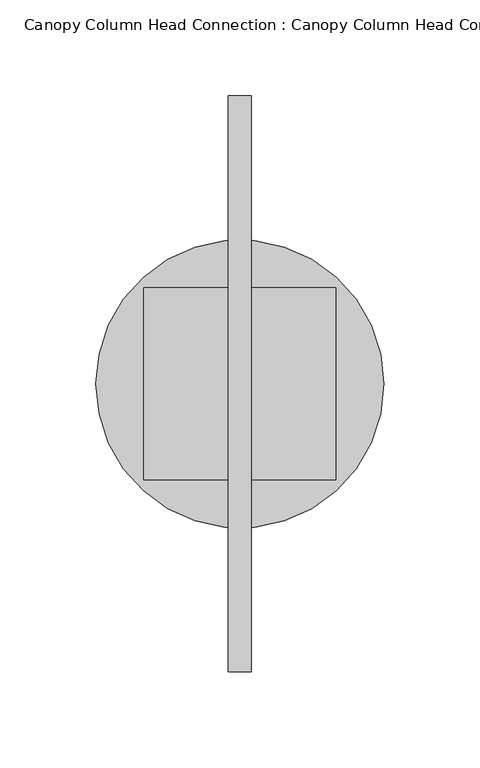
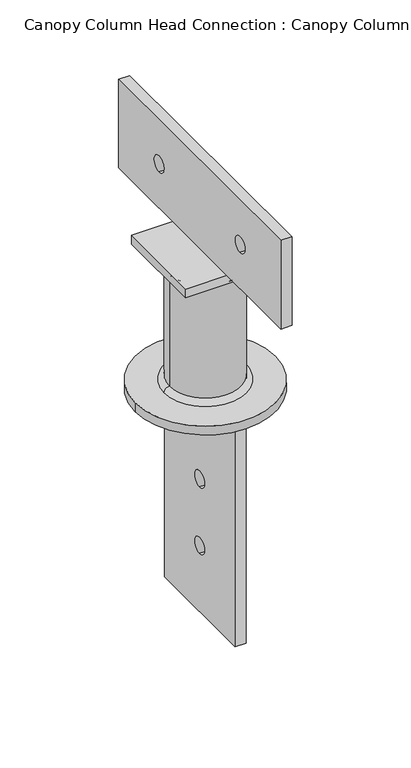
"""IFC4 building model written with IfcOpenShell, lengths in millimetres: proxy geometry, Canopy Column Head Connection : Canopy Column Head Connection."""

import ifcopenshell
import ifcopenshell.guid

model = None  # the IFC model being written
_history = None  # IfcOwnerHistory: only IFC2X3 demands one
_inside = {}  # id of a spatial element -> (the spatial element, [elements in it])
_under = {}  # id of a project, library or spatial element -> (it, [spatial elements below it])
_declared = {}  # id of a project -> (the project, [libraries it declares])
_typed = {}  # id of a type object -> (the type object, [elements of that type])
_made_of = {}  # id of a material, layer set ... -> (it, [elements and type objects made of it])


def new_model(schema):
    """Start an empty IFC model of exactly this schema.

    Asked for "IFC4X3", IfcOpenShell would pick the latest addendum, in which some entities
    have other attributes; the version numbers below select the first issue.
    IFC2X3 requires an IfcOwnerHistory on every rooted entity: one is made here for all.
    """
    global model, _history
    if schema == "IFC4X3":
        model = ifcopenshell.file(schema_version=(4, 3, 0, 0))
    else:
        model = ifcopenshell.file(schema=schema)
    _inside.clear()
    _under.clear()
    _declared.clear()
    _typed.clear()
    _made_of.clear()
    _history = None
    if model.schema == "IFC2X3":
        org = make("IfcOrganization", Name="unknown")
        user = make(
            "IfcPersonAndOrganization",
            ThePerson=make("IfcPerson", FamilyName="unknown"),
            TheOrganization=org,
        )
        app = make(
            "IfcApplication",
            ApplicationDeveloper=org,
            Version="unknown",
            ApplicationFullName="unknown",
            ApplicationIdentifier="unknown",
        )
        _history = make(
            "IfcOwnerHistory",
            OwningUser=user,
            OwningApplication=app,
            ChangeAction="ADDED",
            CreationDate=0,
        )
    return model


def make(cls, **values):
    """One entity of the class cls with the attributes given. An attribute that is None is left unset."""
    return model.create_entity(
        cls, **{name: value for name, value in values.items() if value is not None}
    )


def rooted(cls, **values):
    """An entity with a GlobalId (a new one), such as an element, a storey or a relation."""
    return make(cls, GlobalId=ifcopenshell.guid.new(), OwnerHistory=_history, **values)


def si_unit(unit_type, name, prefix=None):
    """IfcSIUnit, for example si_unit("LENGTHUNIT", "METRE", prefix="MILLI")."""
    return make("IfcSIUnit", UnitType=unit_type, Prefix=prefix, Name=name)


def assignment(units):
    """IfcUnitAssignment: the units of a project."""
    return None if units is None else make("IfcUnitAssignment", Units=units)


def point(xyz):
    """IfcCartesianPoint."""
    return None if xyz is None else make("IfcCartesianPoint", Coordinates=xyz)


def direction(xyz):
    """IfcDirection."""
    return None if xyz is None else make("IfcDirection", DirectionRatios=xyz)


def frame(location, z_axis=None, x_axis=None):
    """IfcAxis2Placement3D, a coordinate frame: its origin and axes. An axis left out is left unset."""
    return make(
        "IfcAxis2Placement3D",
        Location=point(location),
        Axis=direction(z_axis),
        RefDirection=direction(x_axis),
    )


def frame_2d(location, x_axis=None):
    """IfcAxis2Placement2D, a coordinate frame in the plane: its origin and x axis."""
    return make(
        "IfcAxis2Placement2D", Location=point(location), RefDirection=direction(x_axis)
    )


def origin():
    """The frame at (0, 0, 0) with its axes left unset."""
    return frame((0.0, 0.0, 0.0))


def origin_with_axes():
    """The frame at (0, 0, 0) with the z axis (0, 0, 1) and the x axis (1, 0, 0) written out."""
    return frame((0.0, 0.0, 0.0), z_axis=(0.0, 0.0, 1.0), x_axis=(1.0, 0.0, 0.0))


def origin_2d():
    """The frame at (0, 0) in the plane with its x axis left unset."""
    return frame_2d((0.0, 0.0))


def place(relative_to, where):
    """IfcLocalPlacement: puts the frame where relative to a parent placement (None: the world)."""
    return make(
        "IfcLocalPlacement", PlacementRelTo=relative_to, RelativePlacement=where
    )


def context(
    kind, dimensions, precision=None, world=None, true_north=None, identifier=None
):
    """IfcGeometricRepresentationContext, for example the 3D "Model" context."""
    return make(
        "IfcGeometricRepresentationContext",
        ContextIdentifier=identifier,
        ContextType=kind,
        CoordinateSpaceDimension=dimensions,
        Precision=precision,
        WorldCoordinateSystem=world,
        TrueNorth=true_north,
    )


def project(units=None, contexts=None):
    """IfcProject with its units and contexts."""
    return rooted(
        "IfcProject",
        Name="project",
        RepresentationContexts=contexts,
        UnitsInContext=assignment(units),
    )


def spatial(cls, under=None, at=None, **own):
    """A site, building, storey or space (cls), placed at a placement, below another one or the project."""
    s = rooted(cls, ObjectPlacement=at, **own)
    if under is not None:
        _under.setdefault(under.id(), (under, []))[1].append(s)
    return s


def polyline(points):
    """IfcPolyline through the points."""
    return make("IfcPolyline", Points=[point(p) for p in points])


def circle_curve(where, radius):
    """IfcCircle in the frame where."""
    return make("IfcCircle", Position=where, Radius=radius)


def ellipse_curve(where, semi_axis1, semi_axis2):
    """IfcEllipse in the frame where."""
    return make(
        "IfcEllipse", Position=where, SemiAxis1=semi_axis1, SemiAxis2=semi_axis2
    )


def trimmed(basis, trim1, trim2, sense, master):
    """IfcTrimmedCurve: the piece of a basis curve between two trims."""
    return make(
        "IfcTrimmedCurve",
        BasisCurve=basis,
        Trim1=trim1,
        Trim2=trim2,
        SenseAgreement=sense,
        MasterRepresentation=master,
    )


def segment(curve, same_sense, transition):
    """IfcCompositeCurveSegment."""
    return make(
        "IfcCompositeCurveSegment",
        Transition=transition,
        SameSense=same_sense,
        ParentCurve=curve,
    )


def composite_curve(segments, self_intersect=None):
    """IfcCompositeCurve: segments joined end to end."""
    return make("IfcCompositeCurve", Segments=segments, SelfIntersect=self_intersect)


def outline(outer, holes=None, kind="AREA"):
    """IfcArbitraryClosedProfileDef: a profile drawn as a closed curve; with holes, ...WithVoids."""
    if holes is None:
        return make("IfcArbitraryClosedProfileDef", ProfileType=kind, OuterCurve=outer)
    return make(
        "IfcArbitraryProfileDefWithVoids",
        ProfileType=kind,
        OuterCurve=outer,
        InnerCurves=holes,
    )


def extrude(swept, where, along, depth):
    """IfcExtrudedAreaSolid: the profile swept, set in the frame where, extruded along a direction by depth."""
    return make(
        "IfcExtrudedAreaSolid",
        SweptArea=swept,
        Position=where,
        ExtrudedDirection=direction(along),
        Depth=depth,
    )


def shape(context_of_items, identifier, shape_type, items):
    """IfcShapeRepresentation: the items that make up one representation, for example the "Body"."""
    return make(
        "IfcShapeRepresentation",
        ContextOfItems=context_of_items,
        RepresentationIdentifier=identifier,
        RepresentationType=shape_type,
        Items=items,
    )


def source(mapping_origin, context_of_items, identifier, shape_type, items):
    """IfcRepresentationMap: a shape defined once, which mapped items show again and again."""
    return make(
        "IfcRepresentationMap",
        MappingOrigin=mapping_origin,
        MappedRepresentation=shape(context_of_items, identifier, shape_type, items),
    )


def transform(
    local_origin,
    x_axis=None,
    y_axis=None,
    z_axis=None,
    scale=None,
    scale2=None,
    scale3=None,
    uniform=True,
):
    """IfcCartesianTransformationOperator3D, or its non-uniform kind. x_axis, y_axis, z_axis: its Axis1, 2, 3."""
    if uniform:
        return make(
            "IfcCartesianTransformationOperator3D",
            Axis1=direction(x_axis),
            Axis2=direction(y_axis),
            LocalOrigin=point(local_origin),
            Scale=scale,
            Axis3=direction(z_axis),
        )
    return make(
        "IfcCartesianTransformationOperator3DnonUniform",
        Axis1=direction(x_axis),
        Axis2=direction(y_axis),
        LocalOrigin=point(local_origin),
        Scale=scale,
        Axis3=direction(z_axis),
        Scale2=scale2,
        Scale3=scale3,
    )


def mapped(mapping_source, mapping_target):
    """IfcMappedItem: shows the shape of a source again, moved by a transform."""
    return make(
        "IfcMappedItem", MappingSource=mapping_source, MappingTarget=mapping_target
    )


def made_of(thing, what):
    """Note that an element or type object is made of a material, layer set ...; save() writes the relation."""
    if what is not None:
        _made_of.setdefault(what.id(), (what, []))[1].append(thing)
    return thing


def element(
    cls,
    number,
    at=None,
    inside=None,
    cuts=None,
    type_object=None,
    material=None,
    context=None,
    identifier="Body",
    shape_type=None,
    held_by="IfcProductDefinitionShape",
    body=None,
    shapes=None,
    **own,
):
    """One element of the class cls, such as IfcWall. Its Tag is "e" and its number.

    at: its placement. inside: the storey or other place that contains it. cuts: it is an
    opening in that element (IfcRelVoidsElement). A single representation is given by context,
    identifier, shape_type and body (its items); several are given by shapes. held_by: the class
    of the entity that holds the representations. save() writes the other relations.
    """
    e = rooted(cls, Tag="e%d" % number, ObjectPlacement=at, **own)
    if body is not None:
        shapes = [shape(context, identifier, shape_type, body)]
    if shapes is not None:
        e.Representation = make(held_by, Representations=shapes)
    if inside is not None:
        _inside.setdefault(inside.id(), (inside, []))[1].append(e)
    if cuts is not None:
        rooted(
            "IfcRelVoidsElement", RelatingBuildingElement=cuts, RelatedOpeningElement=e
        )
    if type_object is not None:
        _typed.setdefault(type_object.id(), (type_object, []))[1].append(e)
    return made_of(e, material)


def aggregate(whole, parts):
    """IfcRelAggregates: a whole, such as a stair, and the parts it consists of."""
    return rooted("IfcRelAggregates", RelatingObject=whole, RelatedObjects=parts)


def save(model, path):
    """Write the relations noted so far, then the file.

    IfcRelAggregates (storeys below a building ...), IfcRelContainedInSpatialStructure (elements
    in a storey), IfcRelDefinesByType, IfcRelAssociatesMaterial and IfcRelDeclares: one each for
    every whole, place, type object, material and project.
    """
    for whole, parts in _under.values():
        aggregate(whole, parts)
    for where, things in _inside.values():
        rooted(
            "IfcRelContainedInSpatialStructure",
            RelatedElements=things,
            RelatingStructure=where,
        )
    for kind, things in _typed.values():
        rooted("IfcRelDefinesByType", RelatedObjects=things, RelatingType=kind)
    for what, things in _made_of.values():
        rooted("IfcRelAssociatesMaterial", RelatedObjects=things, RelatingMaterial=what)
    for by, libraries in _declared.values():
        rooted("IfcRelDeclares", RelatingContext=by, RelatedDefinitions=libraries)
    model.write(path)


def plane_surface(at):
    """IfcPlane: the flat surface through the origin of the frame at, square to its z axis."""
    return make("IfcPlane", Position=at)


def revolved_surface(curve, axis_point, axis_direction):
    """IfcSurfaceOfRevolution: the curve turned about the line through axis_point along axis_direction."""
    return make(
        "IfcSurfaceOfRevolution",
        SweptCurve=make("IfcArbitraryOpenProfileDef", ProfileType="CURVE", Curve=curve),
        AxisPosition=make("IfcAxis1Placement", Location=point(axis_point), Axis=direction(axis_direction)),
    )


def advanced_brep(points, edges, surfaces, faces):
    """IfcAdvancedBrep: a solid bounded by faces that lie on surfaces and meet in shared edges.

    An edge is (start, end): straight between two places in points (the first is 0);
    or (start, end, curve); or (start, end, curve, False) where it runs against its curve.
    A face is (place in surfaces, loops), or (place, loops, False) where it looks against
    its surface's normal. A loop lists edges by number (the first is 1), with a minus sign
    where the edge is run from its end to its start. The first loop is the outer one.
    """
    corners = [point(p) for p in points]
    vertices = [make("IfcVertexPoint", VertexGeometry=c) for c in corners]
    made = []
    for start, end, *more in edges:
        made.append(
            make(
                "IfcEdgeCurve",
                EdgeStart=vertices[start],
                EdgeEnd=vertices[end],
                EdgeGeometry=more[0] if more else make("IfcPolyline", Points=[corners[start], corners[end]]),
                SameSense=more[1] if len(more) > 1 else True,
            )
        )
    hull = []
    for where, loops, *sense in faces:
        bounds = []
        for j, loop in enumerate(loops):
            ring = [make("IfcOrientedEdge", EdgeElement=made[abs(k) - 1], Orientation=k > 0) for k in loop]
            bounds.append(
                make(
                    "IfcFaceOuterBound" if j == 0 else "IfcFaceBound",
                    Bound=make("IfcEdgeLoop", EdgeList=ring),
                    Orientation=True,
                )
            )
        hull.append(make("IfcAdvancedFace", Bounds=bounds, FaceSurface=surfaces[where], SameSense=sense[0] if sense else True))
    return make("IfcAdvancedBrep", Outer=make("IfcClosedShell", CfsFaces=hull))


def canopy_column_head_connection_canopy_column_head_connection_2c35da79(model_context):
    return source(origin(), model_context, "Body", "SolidModel", [
        extrude(outline(composite_curve([segment(trimmed(circle_curve(origin_2d(), 38.05), [point((-38.05, 0.0))], [point((38.05, 0.0))], False, "CARTESIAN"), True, "CONTINUOUS"), segment(trimmed(circle_curve(origin_2d(), 38.05), [point((38.05, 0.0))], [point((-38.05, 0.0))], False, "CARTESIAN"), True, "CONTINUOUS")], self_intersect=False), holes=[composite_curve([segment(trimmed(circle_curve(origin_2d(), 33.05), [point((-33.05, 0.0))], [point((33.05, 0.0))], True, "CARTESIAN"), True, "CONTINUOUS"), segment(trimmed(circle_curve(origin_2d(), 33.05), [point((33.05, 0.0))], [point((-33.05, 0.0))], True, "CARTESIAN"), True, "CONTINUOUS")], self_intersect=False)]), frame((0.0, 0.0, 10.0), z_axis=(0.0, 0.0, 1.0), x_axis=(1.0, 0.0, 0.0)), (0.0, 0.0, 1.0), 140.0),
        extrude(outline(polyline([(-65.0, -250.0), (-65.0, 0.0), (65.0, 0.0), (65.0, -250.0), (-65.0, -250.0)]), holes=[composite_curve([segment(trimmed(circle_curve(frame_2d((0.0, -100.0)), 8.9998703), [point((0.0, -108.9998703))], [point((0.0, -91.0001297))], True, "CARTESIAN"), True, "CONTINUOUS"), segment(trimmed(circle_curve(frame_2d((0.0, -100.0)), 8.9998703), [point((0.0, -91.0001297))], [point((0.0, -108.9998703))], True, "CARTESIAN"), True, "CONTINUOUS")], self_intersect=False), composite_curve([segment(trimmed(circle_curve(frame_2d((0.0, -175.0)), 8.9998703), [point((0.0, -183.9998703))], [point((0.0, -166.0001297))], True, "CARTESIAN"), True, "CONTINUOUS"), segment(trimmed(circle_curve(frame_2d((0.0, -175.0)), 8.9998703), [point((0.0, -166.0001297))], [point((0.0, -183.9998703))], True, "CARTESIAN"), True, "CONTINUOUS")], self_intersect=False)]), frame((-6.0, 0.0, 0.0), z_axis=(1.0, 0.0, 0.0), x_axis=(0.0, 1.0, 0.0)), (0.0, 0.0, 1.0), 12.0),
        extrude(outline(polyline([(150.0, 160.0), (-150.0, 160.0), (-150.0, 260.0), (150.0, 260.0), (150.0, 160.0)]), holes=[composite_curve([segment(trimmed(circle_curve(frame_2d((-75.0, 210.0)), 8.9998703), [point((-75.0, 201.0001297))], [point((-75.0, 218.9998703))], True, "CARTESIAN"), True, "CONTINUOUS"), segment(trimmed(circle_curve(frame_2d((-75.0, 210.0)), 8.9998703), [point((-75.0, 218.9998703))], [point((-75.0, 201.0001297))], True, "CARTESIAN"), True, "CONTINUOUS")], self_intersect=False), composite_curve([segment(trimmed(circle_curve(frame_2d((75.0, 210.0)), 8.9998703), [point((75.0, 201.0001297))], [point((75.0, 218.9998703))], True, "CARTESIAN"), True, "CONTINUOUS"), segment(trimmed(circle_curve(frame_2d((75.0, 210.0)), 8.9998703), [point((75.0, 218.9998703))], [point((75.0, 201.0001297))], True, "CARTESIAN"), True, "CONTINUOUS")], self_intersect=False)]), frame((-6.0, 0.0, 0.0), z_axis=(1.0, 0.0, 0.0), x_axis=(0.0, 1.0, 0.0)), (0.0, 0.0, 1.0), 12.0),
        extrude(outline(composite_curve([segment(trimmed(circle_curve(origin_2d(), 75.0), [point((75.0, 0.0))], [point((-75.0, 0.0))], False, "CARTESIAN"), True, "CONTINUOUS"), segment(trimmed(circle_curve(origin_2d(), 75.0), [point((-75.0, 0.0))], [point((75.0, 0.0))], False, "CARTESIAN"), True, "CONTINUOUS")], self_intersect=False)), origin_with_axes(), (0.0, 0.0, 1.0), 10.0),
        advanced_brep(
        [(-38.05, 0.0, 150.0), (38.05, 0.0, 150.0), (38.05, 0.0, 144.0), (-38.05, 0.0, 144.0), (44.05, 0.0, 150.0), (-44.05, 0.0, 150.0)],
        [
            (0, 1, circle_curve(frame((0.0, 0.0, 150.0), z_axis=(0.0, 0.0, 1.0), x_axis=(1.0, 0.0, 0.0)), 38.05)),
            (1, 2),
            (2, 3, circle_curve(frame((0.0, 0.0, 144.0), z_axis=(0.0, 0.0, -1.0), x_axis=(1.0, 0.0, 0.0)), 38.05)),
            (3, 0),
            (1, 0, circle_curve(frame((0.0, 0.0, 150.0), z_axis=(0.0, 0.0, 1.0), x_axis=(1.0, 0.0, 0.0)), 38.05)),
            (3, 2, circle_curve(frame((0.0, 0.0, 144.0), z_axis=(0.0, 0.0, -1.0), x_axis=(1.0, 0.0, 0.0)), 38.05)),
            (2, 4, circle_curve(frame((38.05, 0.0, 150.0), z_axis=(0.0, -1.0, 0.0), x_axis=(-1.0, 0.0, 0.0)), 6.0)),
            (4, 5, circle_curve(frame((0.0, 0.0, 150.0), z_axis=(0.0, 0.0, -1.0), x_axis=(1.0, 0.0, 0.0)), 44.05)),
            (5, 3, circle_curve(frame((-38.05, 0.0, 150.0), z_axis=(0.0, -1.0, 0.0), x_axis=(1.0, 0.0, 0.0)), 6.0)),
            (5, 4, circle_curve(frame((0.0, 0.0, 150.0), z_axis=(0.0, 0.0, -1.0), x_axis=(1.0, 0.0, 0.0)), 44.05)),
            (4, 1),
            (0, 5),
        ],
        [
            revolved_surface(polyline([(38.05, 0.0, 144.0), (38.05, 0.0, 150.0)]), (0.0, 0.0, 40.0), (0.0, 0.0, -1.0)),
            revolved_surface(trimmed(ellipse_curve(frame((38.05, 0.0, 150.0), z_axis=(0.0, 1.0, 0.0), x_axis=(-1.0, 0.0, 0.0)), 6.0, 6.0), [point((44.05, 0.0, 150.0))], [point((38.05, 0.0, 144.0))], True, "CARTESIAN"), (0.0, 0.0, 40.0), (0.0, 0.0, -1.0)),
            plane_surface(frame((0.0, 0.0, 150.0), z_axis=(0.0, 0.0, 1.0), x_axis=(1.0, 0.0, 0.0))),
        ],
        [
            (0, [[1, 2, 3, 4]]),
            (0, [[5, -4, 6, -2]]),
            (1, [[-3, 7, 8, 9]]),
            (1, [[-6, -9, 10, -7]]),
            (2, [[-8, 11, -1, 12]]),
            (2, [[-10, -12, -5, -11]]),
        ],
    ),
        extrude(outline(polyline([(50.0, 50.0), (50.0, -50.0), (-50.0, -50.0), (-50.0, 50.0), (50.0, 50.0)])), frame((0.0, 0.0, 150.0), z_axis=(0.0, 0.0, 1.0), x_axis=(1.0, 0.0, 0.0)), (0.0, 0.0, 1.0), 10.0),
        advanced_brep(
        [(-38.05, 0.0, 16.0), (38.05, 0.0, 16.0), (38.05, 0.0, 10.0), (-38.05, 0.0, 10.0), (-44.05, 0.0, 10.0), (44.05, 0.0, 10.0)],
        [
            (0, 1, circle_curve(frame((0.0, 0.0, 16.0), z_axis=(0.0, 0.0, 1.0), x_axis=(1.0, 0.0, 0.0)), 38.05)),
            (1, 2),
            (2, 3, circle_curve(frame((0.0, 0.0, 10.0), z_axis=(0.0, 0.0, -1.0), x_axis=(1.0, 0.0, 0.0)), 38.05)),
            (3, 0),
            (1, 0, circle_curve(frame((0.0, 0.0, 16.0), z_axis=(0.0, 0.0, 1.0), x_axis=(1.0, 0.0, 0.0)), 38.05)),
            (3, 2, circle_curve(frame((0.0, 0.0, 10.0), z_axis=(0.0, 0.0, -1.0), x_axis=(1.0, 0.0, 0.0)), 38.05)),
            (4, 5, circle_curve(frame((0.0, 0.0, 10.0), z_axis=(0.0, 0.0, 1.0), x_axis=(1.0, 0.0, 0.0)), 44.05)),
            (5, 1, circle_curve(frame((38.05, 0.0, 10.0), z_axis=(0.0, -1.0, 0.0), x_axis=(-1.0, 0.0, 0.0)), 6.0)),
            (0, 4, circle_curve(frame((-38.05, 0.0, 10.0), z_axis=(0.0, -1.0, 0.0), x_axis=(1.0, 0.0, 0.0)), 6.0)),
            (5, 4, circle_curve(frame((0.0, 0.0, 10.0), z_axis=(0.0, 0.0, 1.0), x_axis=(1.0, 0.0, 0.0)), 44.05)),
            (2, 5),
            (4, 3),
        ],
        [
            revolved_surface(polyline([(38.05, 0.0, 10.0), (38.05, 0.0, 16.0)]), (0.0, 0.0, 150.0), (0.0, 0.0, -1.0)),
            revolved_surface(trimmed(ellipse_curve(frame((38.05, 0.0, 10.0), z_axis=(0.0, 1.0, 0.0), x_axis=(-1.0, 0.0, 0.0)), 6.0, 6.0), [point((38.05, 0.0, 16.0))], [point((44.05, 0.0, 10.0))], True, "CARTESIAN"), (0.0, 0.0, 150.0), (0.0, 0.0, -1.0)),
            plane_surface(frame((0.0, 0.0, 10.0), z_axis=(0.0, 0.0, -1.0), x_axis=(1.0, 0.0, 0.0))),
        ],
        [
            (0, [[1, 2, 3, 4]]),
            (0, [[5, -4, 6, -2]]),
            (1, [[7, 8, -1, 9]]),
            (1, [[10, -9, -5, -8]]),
            (2, [[-3, 11, -7, 12]]),
            (2, [[-6, -12, -10, -11]]),
        ],
    ),
    ])


if __name__ == "__main__":
    model = new_model("IFC4")
    model_context = context("Model", 3, world=origin())
    ifc_project = project(units=[si_unit("LENGTHUNIT", "METRE", prefix="MILLI")], contexts=[model_context])
    site = spatial("IfcSite", under=ifc_project)
    building = spatial("IfcBuilding", under=site)
    placement = place(None, origin())
    canopy_column_head_connection_canopy_column_head_connection_shape = canopy_column_head_connection_canopy_column_head_connection_2c35da79(model_context)
    element("IfcBuildingElementProxy", 1, Name="Canopy Column Head Connection : Canopy Column Head Connection", ObjectType="Canopy Column Head Connection : Canopy Column Head Connection", at=placement, inside=building, context=model_context, shape_type="MappedRepresentation", body=[
        mapped(canopy_column_head_connection_canopy_column_head_connection_shape, transform((0.0, 0.0, 0.0), x_axis=(1.0, 0.0, 0.0), y_axis=(0.0, 1.0, 0.0), z_axis=(0.0, 0.0, 1.0))),
    ])
    save(model, "model.ifc")
